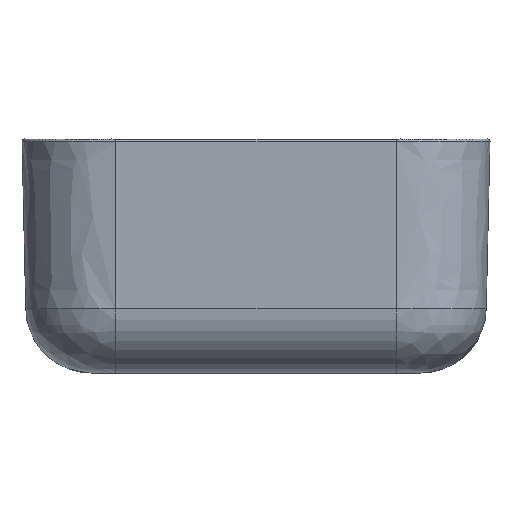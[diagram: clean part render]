
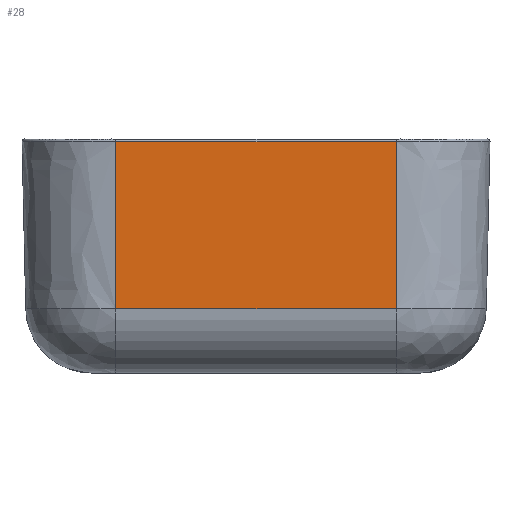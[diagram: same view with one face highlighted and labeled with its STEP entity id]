
A CAD part, left-side view. The second image highlights one B-rep face of the part: STEP entity #28.
In plain terms, the highlighted planar face has unit normal (-1, 0, -0.022).
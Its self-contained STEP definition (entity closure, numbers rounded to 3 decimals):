
#28=ADVANCED_FACE('',(#156),#1779,.T.);
#156=FACE_OUTER_BOUND('',#277,.T.);
#277=EDGE_LOOP('',(#416,#417,#418,#419));
#416=ORIENTED_EDGE('',*,*,#969,.T.);
#417=ORIENTED_EDGE('',*,*,#972,.T.);
#418=ORIENTED_EDGE('',*,*,#971,.F.);
#419=ORIENTED_EDGE('',*,*,#970,.F.);
#969=EDGE_CURVE('',#1554,#1557,#1493,.T.);
#970=EDGE_CURVE('',#1554,#1558,#1298,.T.);
#971=EDGE_CURVE('',#1558,#1559,#1299,.T.);
#972=EDGE_CURVE('',#1557,#1559,#1300,.T.);
#1298=B_SPLINE_CURVE_WITH_KNOTS('',1,(#4475,#4476),.UNSPECIFIED.,.F.,.F.,
(2,2),(2.047,90.897),.UNSPECIFIED.);
#1299=B_SPLINE_CURVE_WITH_KNOTS('',1,(#4477,#4478),.UNSPECIFIED.,.F.,.F.,
(2,2),(0.,150.),.UNSPECIFIED.);
#1300=B_SPLINE_CURVE_WITH_KNOTS('',1,(#4479,#4480),.UNSPECIFIED.,.F.,.F.,
(2,2),(2.047,90.897),.UNSPECIFIED.);
#1493=(
BOUNDED_CURVE()
B_SPLINE_CURVE(1,(#4473,#4474),.UNSPECIFIED.,.F.,.F.)
B_SPLINE_CURVE_WITH_KNOTS((2,2),(0.,150.),.UNSPECIFIED.)
CURVE()
GEOMETRIC_REPRESENTATION_ITEM()
RATIONAL_B_SPLINE_CURVE((1.,1.))
REPRESENTATION_ITEM('')
);
#1554=VERTEX_POINT('',#4330);
#1557=VERTEX_POINT('',#4333);
#1558=VERTEX_POINT('',#4334);
#1559=VERTEX_POINT('',#4335);
#1779=PLANE('',#1926);
#1926=AXIS2_PLACEMENT_3D('',#2165,#2025,$);
#2025=DIRECTION('',(-1.,0.,-0.022));
#2165=CARTESIAN_POINT('',(19449.921,1359.826,-5611.122));
#4330=CARTESIAN_POINT('',(19449.921,1359.826,-5611.122));
#4333=CARTESIAN_POINT('',(19449.921,1509.826,-5611.122));
#4334=CARTESIAN_POINT('',(19451.912,1359.826,-5700.37));
#4335=CARTESIAN_POINT('',(19451.912,1509.826,-5700.37));
#4473=CARTESIAN_POINT('',(19449.921,1359.826,-5611.122));
#4474=CARTESIAN_POINT('',(19449.921,1509.826,-5611.122));
#4475=CARTESIAN_POINT('',(19449.921,1359.826,-5611.122));
#4476=CARTESIAN_POINT('',(19451.912,1359.826,-5700.37));
#4477=CARTESIAN_POINT('',(19451.912,1359.826,-5700.37));
#4478=CARTESIAN_POINT('',(19451.912,1509.826,-5700.37));
#4479=CARTESIAN_POINT('',(19449.921,1509.826,-5611.122));
#4480=CARTESIAN_POINT('',(19451.912,1509.826,-5700.37));
